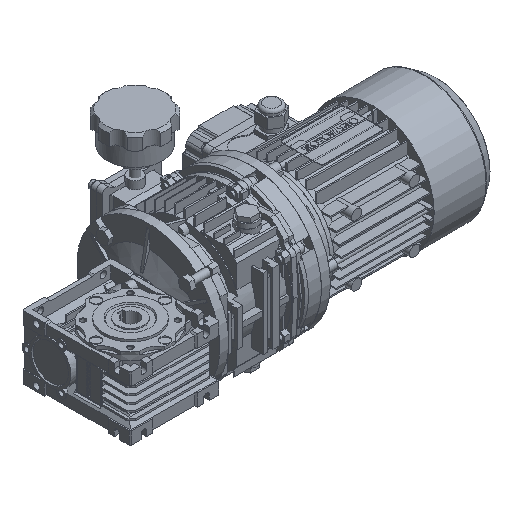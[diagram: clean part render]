
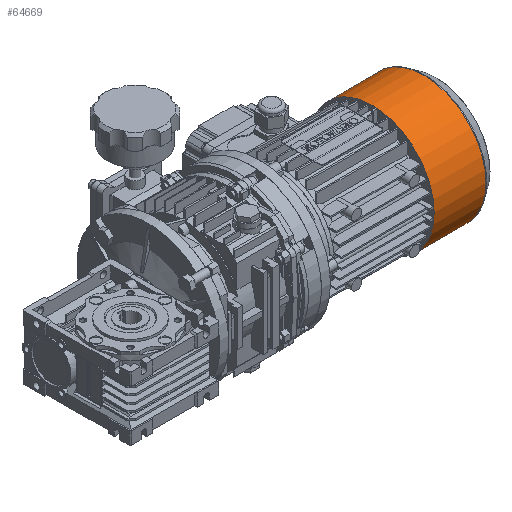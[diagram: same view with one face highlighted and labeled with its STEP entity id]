
A CAD part, isometric view. The second image highlights one B-rep face of the part: STEP entity #64669.
In plain terms, the highlighted cylindrical face has radius 69.45 mm (diameter 138.9 mm), a full revolution.
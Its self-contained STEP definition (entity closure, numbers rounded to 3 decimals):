
#1318=CYLINDRICAL_SURFACE('',#71078,69.45);
#4870=CIRCLE('',#71077,69.45);
#4871=CIRCLE('',#71079,69.45);
#23462=ORIENTED_EDGE('',*,*,#33025,.F.);
#23463=ORIENTED_EDGE('',*,*,#33024,.T.);
#33024=EDGE_CURVE('',#39393,#39393,#4870,.T.);
#33025=EDGE_CURVE('',#39394,#39394,#4871,.T.);
#39393=VERTEX_POINT('',#110642);
#39394=VERTEX_POINT('',#110645);
#55100=EDGE_LOOP('',(#23462));
#55101=EDGE_LOOP('',(#23463));
#59005=FACE_BOUND('',#55100,.T.);
#59006=FACE_BOUND('',#55101,.T.);
#64669=ADVANCED_FACE('',(#59005,#59006),#1318,.T.);
#71077=AXIS2_PLACEMENT_3D('',#110641,#89644,#89645);
#71078=AXIS2_PLACEMENT_3D('',#110643,#89646,#89647);
#71079=AXIS2_PLACEMENT_3D('',#110644,#89648,#89649);
#89644=DIRECTION('',(1.,0.,0.));
#89645=DIRECTION('',(0.,0.,-1.));
#89646=DIRECTION('',(1.,0.,0.));
#89647=DIRECTION('',(0.,0.,-1.));
#89648=DIRECTION('',(1.,0.,0.));
#89649=DIRECTION('',(0.,0.,-1.));
#110641=CARTESIAN_POINT('',(0.,0.,0.));
#110642=CARTESIAN_POINT('',(0.,0.,-69.45));
#110643=CARTESIAN_POINT('',(72.,0.,0.));
#110644=CARTESIAN_POINT('',(57.873,0.,0.));
#110645=CARTESIAN_POINT('',(57.873,0.,-69.45));
